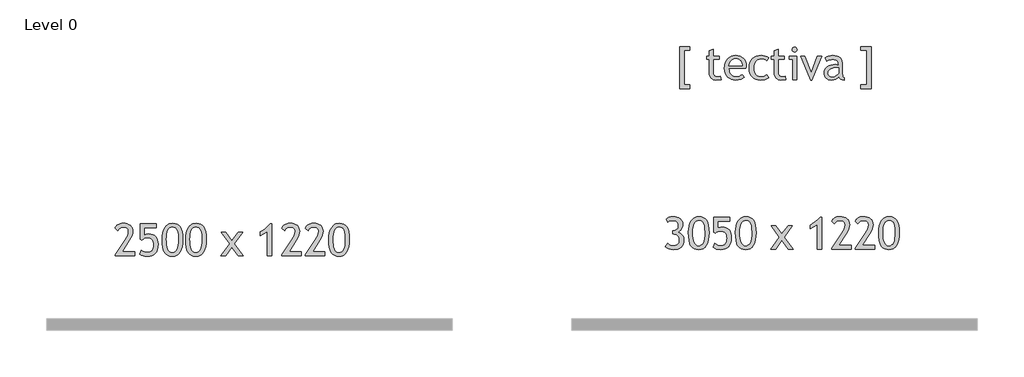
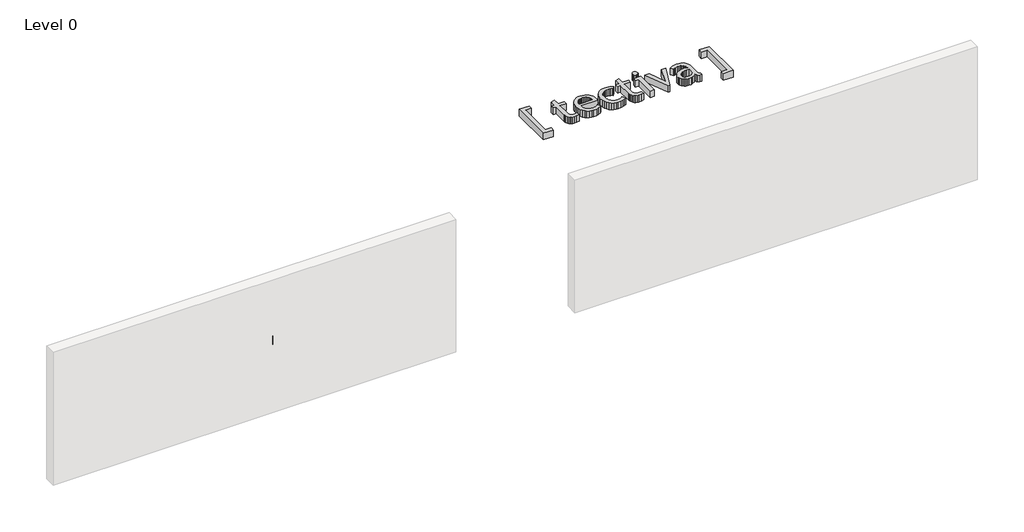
# One storey, part 5 of 5: 3 proxies.
"""IFC4 building model written with IfcOpenShell, lengths in millimetres."""

import ifcopenshell
import ifcopenshell.guid

model = None  # the IFC model being written
_history = None  # IfcOwnerHistory: only IFC2X3 demands one
_inside = {}  # id of a spatial element -> (the spatial element, [elements in it])
_under = {}  # id of a project, library or spatial element -> (it, [spatial elements below it])
_declared = {}  # id of a project -> (the project, [libraries it declares])
_typed = {}  # id of a type object -> (the type object, [elements of that type])
_made_of = {}  # id of a material, layer set ... -> (it, [elements and type objects made of it])


def new_model(schema):
    """Start an empty IFC model of exactly this schema.

    Asked for "IFC4X3", IfcOpenShell would pick the latest addendum, in which some entities
    have other attributes; the version numbers below select the first issue.
    IFC2X3 requires an IfcOwnerHistory on every rooted entity: one is made here for all.
    """
    global model, _history
    if schema == "IFC4X3":
        model = ifcopenshell.file(schema_version=(4, 3, 0, 0))
    else:
        model = ifcopenshell.file(schema=schema)
    _inside.clear()
    _under.clear()
    _declared.clear()
    _typed.clear()
    _made_of.clear()
    _history = None
    if model.schema == "IFC2X3":
        org = make("IfcOrganization", Name="unknown")
        user = make(
            "IfcPersonAndOrganization",
            ThePerson=make("IfcPerson", FamilyName="unknown"),
            TheOrganization=org,
        )
        app = make(
            "IfcApplication",
            ApplicationDeveloper=org,
            Version="unknown",
            ApplicationFullName="unknown",
            ApplicationIdentifier="unknown",
        )
        _history = make(
            "IfcOwnerHistory",
            OwningUser=user,
            OwningApplication=app,
            ChangeAction="ADDED",
            CreationDate=0,
        )
    return model


def make(cls, **values):
    """One entity of the class cls with the attributes given. An attribute that is None is left unset."""
    return model.create_entity(
        cls, **{name: value for name, value in values.items() if value is not None}
    )


def rooted(cls, **values):
    """An entity with a GlobalId (a new one), such as an element, a storey or a relation."""
    return make(cls, GlobalId=ifcopenshell.guid.new(), OwnerHistory=_history, **values)


def si_unit(unit_type, name, prefix=None):
    """IfcSIUnit, for example si_unit("LENGTHUNIT", "METRE", prefix="MILLI")."""
    return make("IfcSIUnit", UnitType=unit_type, Prefix=prefix, Name=name)


def assignment(units):
    """IfcUnitAssignment: the units of a project."""
    return None if units is None else make("IfcUnitAssignment", Units=units)


def point(xyz):
    """IfcCartesianPoint."""
    return None if xyz is None else make("IfcCartesianPoint", Coordinates=xyz)


def direction(xyz):
    """IfcDirection."""
    return None if xyz is None else make("IfcDirection", DirectionRatios=xyz)


def frame(location, z_axis=None, x_axis=None):
    """IfcAxis2Placement3D, a coordinate frame: its origin and axes. An axis left out is left unset."""
    return make(
        "IfcAxis2Placement3D",
        Location=point(location),
        Axis=direction(z_axis),
        RefDirection=direction(x_axis),
    )


def origin():
    """The frame at (0, 0, 0) with its axes left unset."""
    return frame((0.0, 0.0, 0.0))


def origin_with_axes():
    """The frame at (0, 0, 0) with the z axis (0, 0, 1) and the x axis (1, 0, 0) written out."""
    return frame((0.0, 0.0, 0.0), z_axis=(0.0, 0.0, 1.0), x_axis=(1.0, 0.0, 0.0))


def place(relative_to, where):
    """IfcLocalPlacement: puts the frame where relative to a parent placement (None: the world)."""
    return make(
        "IfcLocalPlacement", PlacementRelTo=relative_to, RelativePlacement=where
    )


def context(
    kind, dimensions, precision=None, world=None, true_north=None, identifier=None
):
    """IfcGeometricRepresentationContext, for example the 3D "Model" context."""
    return make(
        "IfcGeometricRepresentationContext",
        ContextIdentifier=identifier,
        ContextType=kind,
        CoordinateSpaceDimension=dimensions,
        Precision=precision,
        WorldCoordinateSystem=world,
        TrueNorth=true_north,
    )


def project(units=None, contexts=None):
    """IfcProject with its units and contexts."""
    return rooted(
        "IfcProject",
        Name="project",
        RepresentationContexts=contexts,
        UnitsInContext=assignment(units),
    )


def spatial(cls, under=None, at=None, **own):
    """A site, building, storey or space (cls), placed at a placement, below another one or the project."""
    s = rooted(cls, ObjectPlacement=at, **own)
    if under is not None:
        _under.setdefault(under.id(), (under, []))[1].append(s)
    return s


def polyline(points):
    """IfcPolyline through the points."""
    return make("IfcPolyline", Points=[point(p) for p in points])


def outline(outer, holes=None, kind="AREA"):
    """IfcArbitraryClosedProfileDef: a profile drawn as a closed curve; with holes, ...WithVoids."""
    if holes is None:
        return make("IfcArbitraryClosedProfileDef", ProfileType=kind, OuterCurve=outer)
    return make(
        "IfcArbitraryProfileDefWithVoids",
        ProfileType=kind,
        OuterCurve=outer,
        InnerCurves=holes,
    )


def extrude(swept, where, along, depth):
    """IfcExtrudedAreaSolid: the profile swept, set in the frame where, extruded along a direction by depth."""
    return make(
        "IfcExtrudedAreaSolid",
        SweptArea=swept,
        Position=where,
        ExtrudedDirection=direction(along),
        Depth=depth,
    )


def shape(context_of_items, identifier, shape_type, items):
    """IfcShapeRepresentation: the items that make up one representation, for example the "Body"."""
    return make(
        "IfcShapeRepresentation",
        ContextOfItems=context_of_items,
        RepresentationIdentifier=identifier,
        RepresentationType=shape_type,
        Items=items,
    )


def made_of(thing, what):
    """Note that an element or type object is made of a material, layer set ...; save() writes the relation."""
    if what is not None:
        _made_of.setdefault(what.id(), (what, []))[1].append(thing)
    return thing


def element(
    cls,
    number,
    at=None,
    inside=None,
    cuts=None,
    type_object=None,
    material=None,
    context=None,
    identifier="Body",
    shape_type=None,
    held_by="IfcProductDefinitionShape",
    body=None,
    shapes=None,
    **own,
):
    """One element of the class cls, such as IfcWall. Its Tag is "e" and its number.

    at: its placement. inside: the storey or other place that contains it. cuts: it is an
    opening in that element (IfcRelVoidsElement). A single representation is given by context,
    identifier, shape_type and body (its items); several are given by shapes. held_by: the class
    of the entity that holds the representations. save() writes the other relations.
    """
    e = rooted(cls, Tag="e%d" % number, ObjectPlacement=at, **own)
    if body is not None:
        shapes = [shape(context, identifier, shape_type, body)]
    if shapes is not None:
        e.Representation = make(held_by, Representations=shapes)
    if inside is not None:
        _inside.setdefault(inside.id(), (inside, []))[1].append(e)
    if cuts is not None:
        rooted(
            "IfcRelVoidsElement", RelatingBuildingElement=cuts, RelatedOpeningElement=e
        )
    if type_object is not None:
        _typed.setdefault(type_object.id(), (type_object, []))[1].append(e)
    return made_of(e, material)


def aggregate(whole, parts):
    """IfcRelAggregates: a whole, such as a stair, and the parts it consists of."""
    return rooted("IfcRelAggregates", RelatingObject=whole, RelatedObjects=parts)


def save(model, path):
    """Write the relations noted so far, then the file.

    IfcRelAggregates (storeys below a building ...), IfcRelContainedInSpatialStructure (elements
    in a storey), IfcRelDefinesByType, IfcRelAssociatesMaterial and IfcRelDeclares: one each for
    every whole, place, type object, material and project.
    """
    for whole, parts in _under.values():
        aggregate(whole, parts)
    for where, things in _inside.values():
        rooted(
            "IfcRelContainedInSpatialStructure",
            RelatedElements=things,
            RelatingStructure=where,
        )
    for kind, things in _typed.values():
        rooted("IfcRelDefinesByType", RelatedObjects=things, RelatingType=kind)
    for what, things in _made_of.values():
        rooted("IfcRelAssociatesMaterial", RelatedObjects=things, RelatingMaterial=what)
    for by, libraries in _declared.values():
        rooted("IfcRelDeclares", RelatingContext=by, RelatedDefinitions=libraries)
    model.write(path)


model = new_model("IFC4")

# Units and contexts
model_context = context("Model", 3, world=origin())
ifc_project = project(units=[si_unit("LENGTHUNIT", "METRE", prefix="MILLI")], contexts=[model_context])

# Site, building, storey
site = spatial("IfcSite", under=ifc_project)
building = spatial("IfcBuilding", under=site)
storey = spatial("IfcBuildingStorey", under=building, Name="Level 0", Elevation=0.0)

# Proxies
placement = place(None, origin())
element("IfcBuildingElementProxy", 1, Name="600mm Arial", ObjectType="600mm Arial", at=placement, inside=storey, context=model_context, shape_type="SweptSolid", body=[
    extrude(outline(polyline([(-7526.9321554, 7845.6289486), (-7526.9321554, 7863.9817028), (-7310.2213503, 8185.9891181), (-7280.4560564, 8234.6748967), (-7259.1951321, 8279.5140121), (-7246.4385775, 8320.5064645), (-7242.1863927, 8357.6522537), (-7243.8519283, 8379.4635288), (-7248.8485352, 8398.366634), (-7257.1762133, 8414.3615691), (-7268.8349626, 8427.4483342), (-7283.8247832, 8437.6269292), (-7302.145675, 8444.8973543), (-7323.7976381, 8449.2596093), (-7348.7806724, 8450.7136943), (-7385.4166628, 8445.6620524), (-7419.689041, 8430.5071265), (-7448.2145971, 8407.6588744), (-7467.6101215, 8379.5272537), (-7526.9321554, 8430.6925079), (-7517.1706684, 8453.0425476), (-7503.6436226, 8473.0058024), (-7486.351018, 8490.5822722), (-7465.2928546, 8505.771957), (-7441.1527261, 8518.0187129), (-7414.6142264, 8526.7663956), (-7385.6773554, 8532.0150052), (-7354.342113, 8533.7645418), (-7308.3327778, 8530.9548556), (-7267.6299838, 8522.5257971), (-7232.2337311, 8508.4773662), (-7202.1440198, 8488.809563), (-7178.1371342, 8463.9974271), (-7160.9893588, 8434.5159984), (-7150.7006935, 8400.3652767), (-7147.2711385, 8361.5452621), (-7151.8477407, 8321.0510222), (-7165.5775474, 8275.5746583), (-7188.4605585, 8225.1161705), (-7220.4967741, 8169.6755587), (-7372.6948673, 7928.679796), (-7111.6779181, 7928.679796), (-7111.6779181, 7845.6289486), (-7526.9321554, 7845.6289486)])), origin_with_axes(), (0.0, 0.0, 1.0), 150.0),
    extrude(outline(polyline([(-6960.035969, 8177.8323384), (-6993.0338503, 8199.1511943), (-6993.0338503, 8521.900135), (-6648.9660537, 8521.900135), (-6648.9660537, 8438.8492876), (-6909.9830029, 8438.8492876), (-6909.9830029, 8282.9435672), (-6890.6801692, 8294.0548622), (-6868.9210325, 8301.9915015), (-6844.7055929, 8306.7534851), (-6818.0338503, 8308.340813), (-6771.1960921, 8304.7953945), (-6730.2326056, 8294.1591392), (-6695.1433908, 8276.4320471), (-6665.9284478, 8251.6141181), (-6642.9353665, 8220.2499099), (-6626.511737, 8182.8839803), (-6616.6575593, 8139.5163294), (-6613.3728334, 8090.146957), (-6616.9877698, 8030.0573285), (-6627.8325791, 7977.9796504), (-6645.9072613, 7933.9139227), (-6671.2118164, 7897.8601456), (-6703.7462444, 7869.8183189), (-6743.5105452, 7849.7884427), (-6790.504719, 7837.770517), (-6844.7287656, 7833.7645418), (-6890.9582412, 7836.7306435), (-6933.0629817, 7845.6289486), (-6971.042987, 7860.459457), (-7004.8982571, 7881.2221689), (-6969.3050368, 7964.2730164), (-6936.9791628, 7943.5103045), (-6905.2557783, 7928.679796), (-6874.1348832, 7919.7814909), (-6843.6164774, 7916.8153892), (-6811.8988861, 7919.3093478), (-6784.4103069, 7926.7912235), (-6761.1507399, 7939.2610162), (-6742.1201851, 7956.7187261), (-6727.3186424, 7979.1643531), (-6716.746112, 8006.5978972), (-6710.4025937, 8039.0193584), (-6708.2880876, 8076.4287367), (-6710.393904, 8111.3180872), (-6716.711353, 8141.5555243), (-6727.2404347, 8167.141048), (-6741.9811491, 8188.0746583), (-6760.9334961, 8204.3563552), (-6784.0974759, 8215.9861387), (-6811.4730883, 8222.9640088), (-6843.0603334, 8225.2899655), (-6874.7721316, 8222.3238638), (-6904.8386702, 8213.4255587), (-6933.2599494, 8198.5950503), (-6960.035969, 8177.8323384)])), origin_with_axes(), (0.0, 0.0, 1.0), 150.0),
    extrude(outline(polyline([(-6530.3219859, 8203.0442028), (-6526.620152, 8272.7997311), (-6515.5146501, 8335.8004263), (-6497.0054804, 8392.0462883), (-6471.0926427, 8441.5373172), (-6438.4713172, 8481.886728), (-6419.9056641, 8497.7382822), (-6399.836684, 8510.7077356), (-6378.264377, 8520.7950883), (-6355.1887431, 8528.0003403), (-6304.5274944, 8533.7645418), (-6254.636737, 8528.9562129), (-6211.373363, 8514.5312261), (-6174.7373726, 8490.4895815), (-6144.7287656, 8456.8312791), (-6121.3707147, 8411.1927065), (-6104.6863927, 8351.2102515), (-6094.6757995, 8276.8839141), (-6091.3389351, 8188.2136943), (-6094.8380082, 8110.1102118), (-6105.3352274, 8040.789171), (-6122.8305929, 7980.250572), (-6147.3241046, 7928.4944147), (-6178.5492767, 7887.0500953), (-6196.5863033, 7870.7683984), (-6216.2396236, 7857.44701), (-6237.5092376, 7847.0859302), (-6260.3951453, 7839.6851588), (-6311.0158418, 7833.7645418), (-6361.7002632, 7838.5439049), (-6405.8615781, 7852.8819941), (-6443.4997865, 7876.7788095), (-6474.6148885, 7910.2343511), (-6487.6712394, 7931.5372758), (-6498.9867436, 7957.2111453), (-6516.3952116, 8021.6717187), (-6526.8402923, 8103.6160712), (-6530.3219859, 8203.0442028)]), holes=[polyline([(-6435.4067317, 8194.5166604), (-6433.5616079, 8129.430425), (-6428.0262364, 8073.0223543), (-6418.8006174, 8025.2924483), (-6405.8847507, 7986.240707), (-6389.2786365, 7955.8671305), (-6368.9822746, 7934.1717187), (-6344.9956651, 7921.1544716), (-6317.3188079, 7916.8153892), (-6285.8097706, 7920.6620524), (-6258.7614721, 7932.2020418), (-6236.1739126, 7951.4353575), (-6218.0470918, 7978.3619994), (-6204.137697, 8014.9168855), (-6194.2024149, 8063.0349337), (-6188.2412457, 8122.716144), (-6186.2541893, 8193.9605164), (-6189.3129817, 8286.0718776), (-6198.4893588, 8349.9589274), (-6214.4785007, 8393.662582), (-6225.2885511, 8410.9609798), (-6237.9755876, 8425.2237579), (-6252.5048514, 8436.3756051), (-6268.8415834, 8444.3412102), (-6286.9857836, 8449.1205733), (-6306.937452, 8450.7136943), (-6337.0474394, 8446.7106157), (-6363.1427619, 8434.7013797), (-6385.2234193, 8414.6859864), (-6403.2894118, 8386.6644359), (-6417.3407392, 8350.636728), (-6427.3774017, 8306.6028628), (-6433.3993992, 8254.5628403), (-6435.4067317, 8194.5166604)])]), origin_with_axes(), (0.0, 0.0, 1.0), 150.0),
    extrude(outline(polyline([(-6032.0169012, 8203.0442028), (-6028.3150672, 8272.7997311), (-6017.2095654, 8335.8004263), (-5998.7003956, 8392.0462883), (-5972.7875579, 8441.5373172), (-5940.1662325, 8481.886728), (-5921.6005793, 8497.7382822), (-5901.5315993, 8510.7077356), (-5879.9592923, 8520.7950883), (-5856.8836583, 8528.0003403), (-5806.2224096, 8533.7645418), (-5756.3316522, 8528.9562129), (-5713.0682783, 8514.5312261), (-5676.4322878, 8490.4895815), (-5646.4236808, 8456.8312791), (-5623.06563, 8411.1927065), (-5606.3813079, 8351.2102515), (-5596.3707147, 8276.8839141), (-5593.0338503, 8188.2136943), (-5596.5329234, 8110.1102118), (-5607.0301427, 8040.789171), (-5624.5255082, 7980.250572), (-5649.0190198, 7928.4944147), (-5680.244192, 7887.0500953), (-5698.2812186, 7870.7683984), (-5717.9345389, 7857.44701), (-5739.2041529, 7847.0859302), (-5762.0900606, 7839.6851588), (-5812.7107571, 7833.7645418), (-5863.3951784, 7838.5439049), (-5907.5564933, 7852.8819941), (-5945.1947018, 7876.7788095), (-5976.3098037, 7910.2343511), (-5989.3661547, 7931.5372758), (-6000.6816589, 7957.2111453), (-6018.0901268, 8021.6717187), (-6028.5352076, 8103.6160712), (-6032.0169012, 8203.0442028)]), holes=[polyline([(-5937.1016469, 8194.5166604), (-5935.2565231, 8129.430425), (-5929.7211517, 8073.0223543), (-5920.4955327, 8025.2924483), (-5907.579666, 7986.240707), (-5890.9735517, 7955.8671305), (-5870.6771898, 7934.1717187), (-5846.6905803, 7921.1544716), (-5819.0137232, 7916.8153892), (-5787.5046859, 7920.6620524), (-5760.4563874, 7932.2020418), (-5737.8688278, 7951.4353575), (-5719.7420071, 7978.3619994), (-5705.8326122, 8014.9168855), (-5695.8973302, 8063.0349337), (-5689.936161, 8122.716144), (-5687.9491046, 8193.9605164), (-5691.0078969, 8286.0718776), (-5700.1842741, 8349.9589274), (-5716.173416, 8393.662582), (-5726.9834663, 8410.9609798), (-5739.6705029, 8425.2237579), (-5754.1997666, 8436.3756051), (-5770.5364986, 8444.3412102), (-5788.6806988, 8449.1205733), (-5808.6323673, 8450.7136943), (-5838.7423547, 8446.7106157), (-5864.8376771, 8434.7013797), (-5886.9183346, 8414.6859864), (-5904.984327, 8386.6644359), (-5919.0356545, 8350.636728), (-5929.072317, 8306.6028628), (-5935.0943144, 8254.5628403), (-5937.1016469, 8194.5166604)])]), origin_with_axes(), (0.0, 0.0, 1.0), 150.0),
    extrude(outline(polyline([(-4916.7626639, 7845.6289486), (-5047.2711385, 8028.4149655), (-5177.779613, 7845.6289486), (-5284.5592741, 7845.6289486), (-5097.3241046, 8098.4891181), (-5272.6948673, 8343.9340333), (-5177.779613, 8343.9340333), (-5047.2711385, 8165.9679316), (-4916.7626639, 8343.9340333), (-4821.8474096, 8343.9340333), (-4997.2181724, 8098.4891181), (-4809.9830029, 7845.6289486), (-4916.7626639, 7845.6289486)])), origin_with_axes(), (0.0, 0.0, 1.0), 150.0),
    extrude(outline(polyline([(-4299.8135113, 7845.6289486), (-4299.8135113, 8359.5060672), (-4442.1863927, 8272.7475926), (-4442.1863927, 8355.7984401), (-4387.6611014, 8388.2170047), (-4329.7526003, 8430.9705799), (-4276.8493959, 8477.663509), (-4237.3399944, 8521.900135), (-4204.8982571, 8521.900135), (-4204.8982571, 7845.6289486), (-4299.8135113, 7845.6289486)])), origin_with_axes(), (0.0, 0.0, 1.0), 150.0),
    extrude(outline(polyline([(-3991.3389351, 7845.6289486), (-3991.3389351, 7863.9817028), (-3774.62813, 8185.9891181), (-3744.862836, 8234.6748967), (-3723.6019118, 8279.5140121), (-3710.8453572, 8320.5064645), (-3706.5931724, 8357.6522537), (-3708.258708, 8379.4635288), (-3713.2553148, 8398.366634), (-3721.5829929, 8414.3615691), (-3733.2417423, 8427.4483342), (-3748.2315628, 8437.6269292), (-3766.5524547, 8444.8973543), (-3788.2044177, 8449.2596093), (-3813.187452, 8450.7136943), (-3849.8234425, 8445.6620524), (-3884.0958207, 8430.5071265), (-3912.6213768, 8407.6588744), (-3932.0169012, 8379.5272537), (-3991.3389351, 8430.6925079), (-3981.577448, 8453.0425476), (-3968.0504022, 8473.0058024), (-3950.7577976, 8490.5822722), (-3929.6996342, 8505.771957), (-3905.5595058, 8518.0187129), (-3879.021006, 8526.7663956), (-3850.084135, 8532.0150052), (-3818.7488927, 8533.7645418), (-3772.7395574, 8530.9548556), (-3732.0367635, 8522.5257971), (-3696.6405108, 8508.4773662), (-3666.5507995, 8488.809563), (-3642.5439139, 8463.9974271), (-3625.3961385, 8434.5159984), (-3615.1074732, 8400.3652767), (-3611.6779181, 8361.5452621), (-3616.2545203, 8321.0510222), (-3629.984327, 8275.5746583), (-3652.8673381, 8225.1161705), (-3684.9035537, 8169.6755587), (-3837.1016469, 7928.679796), (-3576.0846978, 7928.679796), (-3576.0846978, 7845.6289486), (-3991.3389351, 7845.6289486)])), origin_with_axes(), (0.0, 0.0, 1.0), 150.0),
    extrude(outline(polyline([(-3493.0338503, 7845.6289486), (-3493.0338503, 7863.9817028), (-3276.3230452, 8185.9891181), (-3246.5577513, 8234.6748967), (-3225.296827, 8279.5140121), (-3212.5402725, 8320.5064645), (-3208.2880876, 8357.6522537), (-3209.9536232, 8379.4635288), (-3214.9502301, 8398.366634), (-3223.2779082, 8414.3615691), (-3234.9366575, 8427.4483342), (-3249.9264781, 8437.6269292), (-3268.2473699, 8444.8973543), (-3289.899333, 8449.2596093), (-3314.8823673, 8450.7136943), (-3351.5183577, 8445.6620524), (-3385.7907359, 8430.5071265), (-3414.3162921, 8407.6588744), (-3433.7118164, 8379.5272537), (-3493.0338503, 8430.6925079), (-3483.2723633, 8453.0425476), (-3469.7453175, 8473.0058024), (-3452.4527129, 8490.5822722), (-3431.3945495, 8505.771957), (-3407.254421, 8518.0187129), (-3380.7159213, 8526.7663956), (-3351.7790503, 8532.0150052), (-3320.4438079, 8533.7645418), (-3274.4344727, 8530.9548556), (-3233.7316787, 8522.5257971), (-3198.3354261, 8508.4773662), (-3168.2457147, 8488.809563), (-3144.2388291, 8463.9974271), (-3127.0910537, 8434.5159984), (-3116.8023885, 8400.3652767), (-3113.3728334, 8361.5452621), (-3117.9494356, 8321.0510222), (-3131.6792423, 8275.5746583), (-3154.5622534, 8225.1161705), (-3186.598469, 8169.6755587), (-3338.7965622, 7928.679796), (-3077.779613, 7928.679796), (-3077.779613, 7845.6289486), (-3493.0338503, 7845.6289486)])), origin_with_axes(), (0.0, 0.0, 1.0), 150.0),
    extrude(outline(polyline([(-2994.7287656, 8203.0442028), (-2991.0269316, 8272.7997311), (-2979.9214298, 8335.8004263), (-2961.41226, 8392.0462883), (-2935.4994224, 8441.5373172), (-2902.8780969, 8481.886728), (-2884.3124437, 8497.7382822), (-2864.2434637, 8510.7077356), (-2842.6711567, 8520.7950883), (-2819.5955227, 8528.0003403), (-2768.9342741, 8533.7645418), (-2719.0435166, 8528.9562129), (-2675.7801427, 8514.5312261), (-2639.1441522, 8490.4895815), (-2609.1355452, 8456.8312791), (-2585.7774944, 8411.1927065), (-2569.0931724, 8351.2102515), (-2559.0825791, 8276.8839141), (-2555.7457147, 8188.2136943), (-2559.2447878, 8110.1102118), (-2569.7420071, 8040.789171), (-2587.2373726, 7980.250572), (-2611.7308842, 7928.4944147), (-2642.9560564, 7887.0500953), (-2660.993083, 7870.7683984), (-2680.6464033, 7857.44701), (-2701.9160173, 7847.0859302), (-2724.801925, 7839.6851588), (-2775.4226215, 7833.7645418), (-2826.1070429, 7838.5439049), (-2870.2683577, 7852.8819941), (-2907.9065662, 7876.7788095), (-2939.0216681, 7910.2343511), (-2952.0780191, 7931.5372758), (-2963.3935233, 7957.2111453), (-2980.8019912, 8021.6717187), (-2991.247072, 8103.6160712), (-2994.7287656, 8203.0442028)]), holes=[polyline([(-2899.8135113, 8194.5166604), (-2897.9683875, 8129.430425), (-2892.4330161, 8073.0223543), (-2883.2073971, 8025.2924483), (-2870.2915304, 7986.240707), (-2853.6854161, 7955.8671305), (-2833.3890542, 7934.1717187), (-2809.4024447, 7921.1544716), (-2781.7255876, 7916.8153892), (-2750.2165503, 7920.6620524), (-2723.1682518, 7932.2020418), (-2700.5806922, 7951.4353575), (-2682.4538715, 7978.3619994), (-2668.5444766, 8014.9168855), (-2658.6091946, 8063.0349337), (-2652.6480254, 8122.716144), (-2650.660969, 8193.9605164), (-2653.7197613, 8286.0718776), (-2662.8961385, 8349.9589274), (-2678.8852804, 8393.662582), (-2689.6953307, 8410.9609798), (-2702.3823673, 8425.2237579), (-2716.911631, 8436.3756051), (-2733.248363, 8444.3412102), (-2751.3925632, 8449.1205733), (-2771.3442317, 8450.7136943), (-2801.4542191, 8446.7106157), (-2827.5495415, 8434.7013797), (-2849.630199, 8414.6859864), (-2867.6961914, 8386.6644359), (-2881.7475189, 8350.636728), (-2891.7841814, 8306.6028628), (-2897.8061788, 8254.5628403), (-2899.8135113, 8194.5166604)])]), origin_with_axes(), (0.0, 0.0, 1.0), 150.0),
])
element("IfcBuildingElementProxy", 2, Name="600mm Arial", ObjectType="600mm Arial", at=placement, inside=storey, context=model_context, shape_type="SweptSolid", body=[
    extrude(outline(polyline([(4146.4241223, 8035.0912284), (4193.8817494, 8106.2776691), (4218.6069878, 8085.5149572), (4246.4373638, 8070.6844488), (4277.3728776, 8061.7861437), (4311.4135291, 8058.820042), (4342.2621453, 8060.740477), (4368.9976128, 8066.5017819), (4391.6199313, 8076.1039568), (4410.1291011, 8089.5470017), (4424.525122, 8106.8309166), (4434.8079941, 8127.9557014), (4440.9777174, 8152.9213562), (4443.0342918, 8181.727881), (4440.722818, 8208.4923142), (4433.7883967, 8232.6150632), (4422.2310277, 8254.0961278), (4406.0507113, 8272.9355081), (4386.0469043, 8288.2642289), (4363.019064, 8299.2133153), (4336.9671904, 8305.7827671), (4307.8912833, 8307.9725844), (4300.6614104, 8307.9725844), (4300.6614104, 8379.159025), (4304.7398003, 8379.159025), (4331.591131, 8380.7898016), (4354.8622844, 8385.6821315), (4374.5532603, 8393.8360146), (4390.6640587, 8405.2514509), (4403.1946798, 8419.9284404), (4412.1451234, 8437.8669832), (4417.5153895, 8459.0670792), (4419.3054782, 8483.5287284), (4417.4169057, 8509.1200453), (4411.751188, 8531.2991866), (4402.3083252, 8550.0661523), (4389.0883172, 8565.4209424), (4372.0911641, 8577.3635569), (4351.3168659, 8585.8939959), (4326.7654226, 8591.0122593), (4298.4368342, 8592.7183471), (4267.2927664, 8590.4937708), (4239.485563, 8583.820042), (4215.015224, 8572.6971606), (4193.8817494, 8557.1251267), (4158.2885291, 8616.4471606), (4184.2650916, 8642.4005505), (4217.7032536, 8660.938686), (4258.6030153, 8672.0615674), (4306.9643765, 8675.7691945), (4350.6448585, 8672.8146792), (4390.1079147, 8663.9511331), (4425.353545, 8649.1785563), (4456.3817494, 8628.4969488), (4481.6863045, 8603.1923937), (4499.7609867, 8574.5509742), (4510.605796, 8542.5726903), (4514.2207325, 8507.257542), (4512.2278829, 8479.9717237), (4506.2493342, 8454.2848195), (4496.2850863, 8430.1968296), (4482.3351392, 8407.7077538), (4465.6971625, 8387.8024308), (4447.6688257, 8371.4656988), (4428.2501286, 8358.6975579), (4407.4410714, 8349.4980081), (4435.8449711, 8338.282436), (4461.178492, 8323.7299996), (4483.4416342, 8305.8406988), (4502.6343977, 8284.6145335), (4518.0847751, 8260.5149572), (4529.1207589, 8234.0054233), (4535.7423493, 8205.0859318), (4537.949546, 8173.7564827), (4534.1550214, 8129.085369), (4522.7714475, 8089.8019011), (4503.7988244, 8055.9060788), (4477.237152, 8027.3979021), (4443.8279557, 8004.8103426), (4404.3127611, 7988.6763714), (4358.691568, 7978.9959887), (4306.9643765, 7975.7691945), (4261.291045, 7980.1256564), (4216.5909655, 7993.195042), (4176.942528, 8012.3820123), (4146.4241223, 8035.0912284)])), origin_with_axes(), (0.0, 0.0, 1.0), 150.0),
    extrude(outline(polyline([(4632.8648003, 8345.0488555), (4636.5666342, 8414.8043839), (4647.6721361, 8477.8050791), (4666.1813058, 8534.0509411), (4692.0941435, 8583.5419699), (4724.715469, 8623.8913807), (4743.2811221, 8639.7429349), (4763.3501022, 8652.7123884), (4784.9224092, 8662.7997411), (4807.9980431, 8670.004993), (4858.6592918, 8675.7691945), (4908.5500492, 8670.9608656), (4951.8134231, 8656.5358788), (4988.4494136, 8632.4942342), (5018.4580206, 8598.8359318), (5041.8160714, 8553.1973592), (5058.5003935, 8493.2149043), (5068.5109867, 8418.8885669), (5071.8478511, 8330.2183471), (5068.348778, 8252.1148645), (5057.8515587, 8182.7938238), (5040.3561933, 8122.2552247), (5015.8626816, 8070.4990674), (4984.6375095, 8029.054748), (4966.6004829, 8012.7730511), (4946.9471625, 7999.4516627), (4925.6775485, 7989.0905829), (4902.7916408, 7981.6898116), (4852.1709443, 7975.7691945), (4801.486523, 7980.5485576), (4757.3252081, 7994.8866469), (4719.6869997, 8018.7834623), (4688.5718977, 8052.2390038), (4675.5155467, 8073.5419286), (4664.2000426, 8099.2157981), (4646.7915746, 8163.6763714), (4636.3464938, 8245.6207239), (4632.8648003, 8345.0488555)]), holes=[polyline([(4727.7800545, 8336.5213132), (4729.6251783, 8271.4350777), (4735.1605497, 8215.027007), (4744.3861688, 8167.297101), (4757.3020354, 8128.2453598), (4773.9081497, 8097.8717832), (4794.2045116, 8076.1763714), (4818.1911211, 8063.1591243), (4845.8679782, 8058.820042), (4877.3770156, 8062.6667051), (4904.425314, 8074.2066945), (4927.0128736, 8093.4400102), (4945.1396943, 8120.3666521), (4959.0490892, 8156.9215383), (4968.9843712, 8205.0395865), (4974.9455405, 8264.7207967), (4976.9325969, 8335.9651691), (4973.8738045, 8428.0765303), (4964.6974274, 8491.9635801), (4948.7082854, 8535.6672348), (4937.8982351, 8552.9656326), (4925.2111986, 8567.2284106), (4910.6819348, 8578.3802578), (4894.3452028, 8586.345863), (4876.2010026, 8591.125226), (4856.2493342, 8592.7183471), (4826.1393467, 8588.7152684), (4800.0440243, 8576.7060324), (4777.9633669, 8556.6906392), (4759.8973744, 8528.6690886), (4745.8460469, 8492.6413807), (4735.8093845, 8448.6075155), (4729.787387, 8396.567493), (4727.7800545, 8336.5213132)])]), origin_with_axes(), (0.0, 0.0, 1.0), 150.0),
    extrude(outline(polyline([(5199.7609867, 8319.8369911), (5166.7631053, 8341.1558471), (5166.7631053, 8663.9047877), (5510.830902, 8663.9047877), (5510.830902, 8580.8539403), (5249.8139528, 8580.8539403), (5249.8139528, 8424.9482199), (5269.1167865, 8436.059515), (5290.8759231, 8443.9961543), (5315.0913628, 8448.7581378), (5341.7631053, 8450.3454657), (5388.6008636, 8446.8000473), (5429.56435, 8436.163792), (5464.6535648, 8418.4366998), (5493.8685079, 8393.6187708), (5516.8615892, 8362.2545626), (5533.2852187, 8324.8886331), (5543.1393964, 8281.5209821), (5546.4241223, 8232.1516098), (5542.8091859, 8172.0619812), (5531.9643765, 8119.9843031), (5513.8896943, 8075.9185755), (5488.5851392, 8039.8647983), (5456.0507113, 8011.8229717), (5416.2864104, 7991.7930955), (5369.2922367, 7979.7751698), (5315.0681901, 7975.7691945), (5268.8387145, 7978.7352962), (5226.733974, 7987.6336013), (5188.7539687, 8002.4641098), (5154.8986986, 8023.2268216), (5190.4919189, 8106.2776691), (5222.8177928, 8085.5149572), (5254.5411774, 8070.6844488), (5285.6620725, 8061.7861437), (5316.1804782, 8058.820042), (5347.8980696, 8061.3140005), (5375.3866488, 8068.7958762), (5398.6462158, 8081.265669), (5417.6767706, 8098.7233788), (5432.4783132, 8121.1690058), (5443.0508437, 8148.6025499), (5449.394362, 8181.0240111), (5451.5088681, 8218.4333894), (5449.4030517, 8253.3227399), (5443.0856027, 8283.560177), (5432.556521, 8309.1457007), (5417.8158066, 8330.079311), (5398.8634596, 8346.3610079), (5375.6994798, 8357.9907914), (5348.3238674, 8364.9686616), (5316.7366223, 8367.2946183), (5285.0248241, 8364.3285166), (5254.9582854, 8355.4302115), (5226.5370063, 8340.599703), (5199.7609867, 8319.8369911)])), origin_with_axes(), (0.0, 0.0, 1.0), 150.0),
    extrude(outline(polyline([(5629.4749698, 8345.0488555), (5633.1768037, 8414.8043839), (5644.2823056, 8477.8050791), (5662.7914753, 8534.0509411), (5688.704313, 8583.5419699), (5721.3256384, 8623.8913807), (5739.8912916, 8639.7429349), (5759.9602717, 8652.7123884), (5781.5325787, 8662.7997411), (5804.6082126, 8670.004993), (5855.2694613, 8675.7691945), (5905.1602187, 8670.9608656), (5948.4235926, 8656.5358788), (5985.0595831, 8632.4942342), (6015.0681901, 8598.8359318), (6038.4262409, 8553.1973592), (6055.110563, 8493.2149043), (6065.1211562, 8418.8885669), (6068.4580206, 8330.2183471), (6064.9589475, 8252.1148645), (6054.4617282, 8182.7938238), (6036.9663628, 8122.2552247), (6012.4728511, 8070.4990674), (5981.247679, 8029.054748), (5963.2106524, 8012.7730511), (5943.557332, 7999.4516627), (5922.287718, 7989.0905829), (5899.4018103, 7981.6898116), (5848.7811138, 7975.7691945), (5798.0966925, 7980.5485576), (5753.9353776, 7994.8866469), (5716.2971692, 8018.7834623), (5685.1820672, 8052.2390038), (5672.1257162, 8073.5419286), (5660.8102121, 8099.2157981), (5643.4017441, 8163.6763714), (5632.9566633, 8245.6207239), (5629.4749698, 8345.0488555)]), holes=[polyline([(5724.390224, 8336.5213132), (5726.2353478, 8271.4350777), (5731.7707192, 8215.027007), (5740.9963383, 8167.297101), (5753.9122049, 8128.2453598), (5770.5183192, 8097.8717832), (5790.8146811, 8076.1763714), (5814.8012906, 8063.1591243), (5842.4781477, 8058.820042), (5873.9871851, 8062.6667051), (5901.0354835, 8074.2066945), (5923.6230431, 8093.4400102), (5941.7498638, 8120.3666521), (5955.6592587, 8156.9215383), (5965.5945407, 8205.0395865), (5971.55571, 8264.7207967), (5973.5427664, 8335.9651691), (5970.483974, 8428.0765303), (5961.3075969, 8491.9635801), (5945.3184549, 8535.6672348), (5934.5084046, 8552.9656326), (5921.8213681, 8567.2284106), (5907.2921043, 8578.3802578), (5890.9553723, 8586.345863), (5872.8111721, 8591.125226), (5852.8595036, 8592.7183471), (5822.7495162, 8588.7152684), (5796.6541938, 8576.7060324), (5774.5735364, 8556.6906392), (5756.5075439, 8528.6690886), (5742.4562164, 8492.6413807), (5732.419554, 8448.6075155), (5726.3975565, 8396.567493), (5724.390224, 8336.5213132)])]), origin_with_axes(), (0.0, 0.0, 1.0), 150.0),
    extrude(outline(polyline([(6744.729207, 7987.6336013), (6614.2207325, 8170.4196183), (6483.7122579, 7987.6336013), (6376.9325969, 7987.6336013), (6564.1677664, 8240.4937708), (6388.7970036, 8485.938686), (6483.7122579, 8485.938686), (6614.2207325, 8307.9725844), (6744.729207, 8485.938686), (6839.6444613, 8485.938686), (6664.2736986, 8240.4937708), (6851.5088681, 7987.6336013), (6744.729207, 7987.6336013)])), origin_with_axes(), (0.0, 0.0, 1.0), 150.0),
    extrude(outline(polyline([(7361.6783596, 7987.6336013), (7361.6783596, 8501.5107199), (7219.3054782, 8414.7522454), (7219.3054782, 8497.8030928), (7273.8307695, 8530.2216574), (7331.7392706, 8572.9752327), (7384.642475, 8619.6681617), (7424.1518765, 8663.9047877), (7456.5936138, 8663.9047877), (7456.5936138, 7987.6336013), (7361.6783596, 7987.6336013)])), origin_with_axes(), (0.0, 0.0, 1.0), 150.0),
    extrude(outline(polyline([(7670.1529359, 7987.6336013), (7670.1529359, 8005.9863555), (7886.8637409, 8327.9937708), (7916.6290349, 8376.6795494), (7937.8899592, 8421.5186649), (7950.6465137, 8462.5111172), (7954.8986986, 8499.6569064), (7953.2331629, 8521.4681815), (7948.2365561, 8540.3712867), (7939.908878, 8556.3662218), (7928.2501286, 8569.4529869), (7913.2603081, 8579.631582), (7894.9394163, 8586.902007), (7873.2874532, 8591.2642621), (7848.3044189, 8592.7183471), (7811.6684284, 8587.6667051), (7777.3960503, 8572.5117793), (7748.8704941, 8549.6635271), (7729.4749698, 8521.5319064), (7670.1529359, 8572.6971606), (7679.9144229, 8595.0472003), (7693.4414687, 8615.0104551), (7710.7340733, 8632.5869249), (7731.7922367, 8647.7766098), (7755.9323651, 8660.0233656), (7782.4708649, 8668.7710483), (7811.4077359, 8674.019658), (7842.7429782, 8675.7691945), (7888.7523135, 8672.9595083), (7929.4551075, 8664.5304498), (7964.8513601, 8650.4820189), (7994.9410714, 8630.8142157), (8018.947957, 8606.0020799), (8036.0957325, 8576.5206511), (8046.3843977, 8542.3699294), (8049.8139528, 8503.5499149), (8045.2373506, 8463.0556749), (8031.5075439, 8417.579311), (8008.6245328, 8367.1208232), (7976.5883172, 8311.6802115), (7824.390224, 8070.6844488), (8085.4071731, 8070.6844488), (8085.4071731, 7987.6336013), (7670.1529359, 7987.6336013)])), origin_with_axes(), (0.0, 0.0, 1.0), 150.0),
    extrude(outline(polyline([(8168.4580206, 7987.6336013), (8168.4580206, 8005.9863555), (8385.1688257, 8327.9937708), (8414.9341196, 8376.6795494), (8436.1950439, 8421.5186649), (8448.9515985, 8462.5111172), (8453.2037833, 8499.6569064), (8451.5382477, 8521.4681815), (8446.5416408, 8540.3712867), (8438.2139627, 8556.3662218), (8426.5552134, 8569.4529869), (8411.5653928, 8579.631582), (8393.244501, 8586.902007), (8371.5925379, 8591.2642621), (8346.6095036, 8592.7183471), (8309.9735132, 8587.6667051), (8275.701135, 8572.5117793), (8247.1755789, 8549.6635271), (8227.7800545, 8521.5319064), (8168.4580206, 8572.6971606), (8178.2195076, 8595.0472003), (8191.7465534, 8615.0104551), (8209.039158, 8632.5869249), (8230.0973214, 8647.7766098), (8254.2374499, 8660.0233656), (8280.7759496, 8668.7710483), (8309.7128207, 8674.019658), (8341.048063, 8675.7691945), (8387.0573982, 8672.9595083), (8427.7601922, 8664.5304498), (8463.1564449, 8650.4820189), (8493.2461562, 8630.8142157), (8517.2530418, 8606.0020799), (8534.4008172, 8576.5206511), (8544.6894825, 8542.3699294), (8548.1190375, 8503.5499149), (8543.5424353, 8463.0556749), (8529.8126286, 8417.579311), (8506.9296175, 8367.1208232), (8474.893402, 8311.6802115), (8322.6953087, 8070.6844488), (8583.7122579, 8070.6844488), (8583.7122579, 7987.6336013), (8168.4580206, 7987.6336013)])), origin_with_axes(), (0.0, 0.0, 1.0), 150.0),
    extrude(outline(polyline([(8666.7631053, 8345.0488555), (8670.4649393, 8414.8043839), (8681.5704411, 8477.8050791), (8700.0796109, 8534.0509411), (8725.9924486, 8583.5419699), (8758.613774, 8623.8913807), (8777.1794272, 8639.7429349), (8797.2484073, 8652.7123884), (8818.8207143, 8662.7997411), (8841.8963482, 8670.004993), (8892.5575969, 8675.7691945), (8942.4483543, 8670.9608656), (8985.7117282, 8656.5358788), (9022.3477187, 8632.4942342), (9052.3563257, 8598.8359318), (9075.7143765, 8553.1973592), (9092.3986986, 8493.2149043), (9102.4092918, 8418.8885669), (9105.7461562, 8330.2183471), (9102.2470831, 8252.1148645), (9091.7498638, 8182.7938238), (9074.2544984, 8122.2552247), (9049.7609867, 8070.4990674), (9018.5358146, 8029.054748), (9000.4987879, 8012.7730511), (8980.8454676, 7999.4516627), (8959.5758536, 7989.0905829), (8936.6899459, 7981.6898116), (8886.0692494, 7975.7691945), (8835.3848281, 7980.5485576), (8791.2235132, 7994.8866469), (8753.5853048, 8018.7834623), (8722.4702028, 8052.2390038), (8709.4138518, 8073.5419286), (8698.0983477, 8099.2157981), (8680.6898797, 8163.6763714), (8670.2447989, 8245.6207239), (8666.7631053, 8345.0488555)]), holes=[polyline([(8761.6783596, 8336.5213132), (8763.5234834, 8271.4350777), (8769.0588548, 8215.027007), (8778.2844739, 8167.297101), (8791.2003405, 8128.2453598), (8807.8064548, 8097.8717832), (8828.1028167, 8076.1763714), (8852.0894262, 8063.1591243), (8879.7662833, 8058.820042), (8911.2753207, 8062.6667051), (8938.3236191, 8074.2066945), (8960.9111787, 8093.4400102), (8979.0379994, 8120.3666521), (8992.9473943, 8156.9215383), (9002.8826763, 8205.0395865), (9008.8438455, 8264.7207967), (9010.830902, 8335.9651691), (9007.7721096, 8428.0765303), (8998.5957325, 8491.9635801), (8982.6065905, 8535.6672348), (8971.7965402, 8552.9656326), (8959.1095036, 8567.2284106), (8944.5802399, 8578.3802578), (8928.2435079, 8586.345863), (8910.0993077, 8591.125226), (8890.1476392, 8592.7183471), (8860.0376518, 8588.7152684), (8833.9423294, 8576.7060324), (8811.8616719, 8556.6906392), (8793.7956795, 8528.6690886), (8779.744352, 8492.6413807), (8769.7076896, 8448.6075155), (8763.6856921, 8396.567493), (8761.6783596, 8336.5213132)])]), origin_with_axes(), (0.0, 0.0, 1.0), 150.0),
])
element("IfcBuildingElementProxy", 3, Name="600mm Arial", ObjectType="600mm Arial", at=placement, inside=storey, context=model_context, shape_type="SweptSolid", body=[
    extrude(outline(polyline([(4447.3615694, 11392.4076101), (4447.3615694, 12282.2381186), (4660.9208914, 12282.2381186), (4660.9208914, 12199.1872711), (4542.2768236, 12199.1872711), (4542.2768236, 11475.4584576), (4660.9208914, 11475.4584576), (4660.9208914, 11392.4076101), (4447.3615694, 11392.4076101)])), origin_with_axes(), (0.0, 0.0, 1.0), 150.0),
    extrude(outline(polyline([(5076.1751287, 12009.3567627), (5016.8530948, 12009.3567627), (5016.8530948, 12080.5432033), (5076.1751287, 12080.5432033), (5076.1751287, 12187.8790084), (5159.2259761, 12222.9160847), (5159.2259761, 12080.5432033), (5289.7344507, 12080.5432033), (5289.7344507, 12009.3567627), (5159.2259761, 12009.3567627), (5159.2259761, 11758.9065508), (5164.3239634, 11704.4971228), (5170.6964475, 11684.1746917), (5179.6179253, 11668.4404491), (5191.3664687, 11656.6803193), (5206.2201499, 11648.2802266), (5224.1789687, 11643.240171), (5245.2429253, 11641.5601525), (5278.426188, 11644.5262542), (5312.7217389, 11653.4245593), (5325.3276711, 11582.979644), (5270.362099, 11573.5251949), (5210.3912304, 11570.3737118), (5183.2270686, 11573.1312595), (5158.2758967, 11581.4039025), (5135.5377148, 11595.1916408), (5115.0125228, 11614.4944745), (5098.0211629, 11637.9915614), (5085.8844772, 11664.3620593), (5078.6024658, 11693.6059682), (5076.1751287, 11725.7232881), (5076.1751287, 12009.3567627)])), origin_with_axes(), (0.0, 0.0, 1.0), 150.0),
    extrude(outline(polyline([(5852.1814846, 11819.5262542), (5491.429366, 11819.5262542), (5494.4186403, 11777.6995858), (5503.3864634, 11741.0172499), (5518.3328353, 11709.4792468), (5539.2577558, 11683.0855762), (5561.9785582, 11664.9182033), (5587.688635, 11651.9415084), (5616.3879862, 11644.1554915), (5648.0766117, 11641.5601525), (5684.4113575, 11644.5262542), (5717.5946202, 11653.4245593), (5747.6263999, 11668.2550677), (5774.5066965, 11689.0177796), (5811.768349, 11629.6957457), (5785.7222685, 11609.1184152), (5748.738688, 11591.5071864), (5692.4754465, 11575.6570805), (5630.0946202, 11570.3737118), (5584.6993607, 11574.39417), (5542.8726922, 11586.4555444), (5504.6146149, 11606.5578352), (5469.9251287, 11634.7010423), (5437.8078088, 11673.248778), (5414.866866, 11717.8909258), (5401.1023003, 11768.6274856), (5396.5141117, 11825.4584576), (5401.22975, 11884.6646281), (5415.3766647, 11937.7068686), (5438.9548559, 11984.585179), (5471.9643236, 12025.2995593), (5507.2562992, 12054.6593315), (5545.6534126, 12075.6305974), (5587.1556636, 12088.2133569), (5631.7630524, 12092.4076101), (5682.6038893, 12088.5725333), (5727.6052134, 12077.0673029), (5766.7670249, 12057.8919189), (5800.0893236, 12031.0463813), (5825.9616091, 11999.1607881), (5844.441813, 11962.4552796), (5855.5299354, 11920.9298559), (5859.2259761, 11874.5845169), (5857.4648533, 11845.8967521), (5852.1814846, 11819.5262542)]), holes=[polyline([(5638.4367812, 12021.2211694), (5609.1696997, 12018.5794851), (5582.3589211, 12010.6544322), (5558.0044454, 11997.4460105), (5536.1062728, 11978.9542203), (5518.5066303, 11957.6121917), (5505.1939317, 11933.8138601), (5496.1681769, 11907.5592256), (5491.429366, 11878.8482881), (5776.1751287, 11878.8482881), (5774.0200704, 11907.2811536), (5767.5548956, 11933.2577161), (5756.7796043, 11956.7779756), (5741.6941965, 11977.8419322), (5720.9894163, 11996.8203485), (5696.8782537, 12010.3763601), (5669.3607087, 12018.5099671), (5638.4367812, 12021.2211694)])]), origin_with_axes(), (0.0, 0.0, 1.0), 150.0),
    extrude(outline(polyline([(6333.8022473, 12044.949983), (6289.3107219, 11985.6279491), (6270.4713416, 11998.0716726), (6241.0188787, 12009.8202161), (6206.5611192, 12018.3709311), (6172.705849, 12021.2211694), (6137.9816038, 12017.9654094), (6107.0345037, 12008.1981292), (6079.8645487, 11991.9193289), (6056.4717389, 11969.1290084), (6037.6555312, 11940.6729703), (6024.2153829, 11907.3970169), (6016.1512939, 11869.3011483), (6013.4632643, 11826.3853644), (6016.1860529, 11783.9330338), (6024.3544189, 11746.8567627), (6037.9683623, 11715.1565508), (6057.0278829, 11688.8323983), (6080.9189052, 11668.1507907), (6109.0273533, 11653.3782139), (6141.3532272, 11644.5146679), (6177.896527, 11641.5601525), (6207.905134, 11644.5262542), (6238.052777, 11653.4245593), (6268.339456, 11668.2550677), (6298.7651711, 11689.0177796), (6333.8022473, 11617.8313389), (6295.7063787, 11597.0686271), (6253.3467389, 11582.2381186), (6206.7233278, 11573.3398135), (6155.8361456, 11570.3737118), (6106.6231888, 11574.6896215), (6061.8709709, 11587.6373506), (6021.5794918, 11609.216899), (5985.7487516, 11639.4282669), (5956.3484272, 11677.0085436), (5935.3481954, 11720.6948188), (5922.7480564, 11770.4870924), (5918.54801, 11826.3853644), (5922.9392309, 11883.5755127), (5936.1128935, 11934.8334576), (5958.0689979, 11980.1591991), (5988.8075439, 12019.5527372), (6027.1698983, 12051.4267441), (6071.9974274, 12074.1938919), (6123.2901313, 12087.8541806), (6181.04801, 12092.4076101), (6221.994117, 12088.5377743), (6266.2307431, 12076.9282669), (6306.064562, 12061.1940243), (6333.8022473, 12044.949983)])), origin_with_axes(), (0.0, 0.0, 1.0), 150.0),
    extrude(outline(polyline([(6452.4463151, 12009.3567627), (6393.1242812, 12009.3567627), (6393.1242812, 12080.5432033), (6452.4463151, 12080.5432033), (6452.4463151, 12187.8790084), (6535.4971626, 12222.9160847), (6535.4971626, 12080.5432033), (6666.0056372, 12080.5432033), (6666.0056372, 12009.3567627), (6535.4971626, 12009.3567627), (6535.4971626, 11758.9065508), (6540.5951499, 11704.4971228), (6546.967634, 11684.1746917), (6555.8891117, 11668.4404491), (6567.6376552, 11656.6803193), (6582.4913363, 11648.2802266), (6600.4501552, 11643.240171), (6621.5141117, 11641.5601525), (6654.6973745, 11644.5262542), (6688.9929253, 11653.4245593), (6701.5988575, 11582.979644), (6646.6332855, 11573.5251949), (6586.6624168, 11570.3737118), (6559.498255, 11573.1312595), (6534.5470831, 11581.4039025), (6511.8089012, 11595.1916408), (6491.2837092, 11614.4944745), (6474.2923493, 11637.9915614), (6462.1556636, 11664.3620593), (6454.8736523, 11693.6059682), (6452.4463151, 11725.7232881), (6452.4463151, 12009.3567627)])), origin_with_axes(), (0.0, 0.0, 1.0), 150.0),
    extrude(outline(polyline([(6843.9717389, 11582.2381186), (6843.9717389, 12009.3567627), (6772.7852982, 12009.3567627), (6772.7852982, 12080.5432033), (6927.0225863, 12080.5432033), (6927.0225863, 11582.2381186), (6843.9717389, 11582.2381186)])), origin_with_axes(), (0.0, 0.0, 1.0), 150.0),
    extrude(outline(polyline([(6885.3117812, 12270.3737118), (6905.9122844, 12266.4575307), (6923.2222685, 12254.7089872), (6934.970812, 12237.4916938), (6938.8869931, 12217.1692627), (6934.970812, 12196.5687595), (6923.2222685, 12179.2587754), (6905.9122844, 12167.5102319), (6885.3117812, 12163.5940508), (6864.9893501, 12167.5102319), (6847.7720567, 12179.2587754), (6836.0235132, 12196.5687595), (6832.1073321, 12217.1692627), (6835.9771679, 12237.7234205), (6847.5866753, 12254.8943686), (6864.7576234, 12266.503876), (6885.3117812, 12270.3737118)])), origin_with_axes(), (0.0, 0.0, 1.0), 150.0),
    extrude(outline(polyline([(7247.3615694, 11570.3737118), (7223.6327558, 11570.3737118), (7010.0734338, 12080.5432033), (7104.988688, 12080.5432033), (7241.429366, 11724.6109999), (7366.0056372, 12080.5432033), (7460.9208914, 12080.5432033), (7247.3615694, 11570.3737118)])), origin_with_axes(), (0.0, 0.0, 1.0), 150.0),
    extrude(outline(polyline([(7824.6391117, 11641.5601525), (7793.6804253, 11610.4160847), (7755.491866, 11588.170322), (7710.0734338, 11574.8228644), (7657.4251287, 11570.3737118), (7628.2159788, 11573.0617415), (7601.0228511, 11581.1258305), (7575.8457457, 11594.5659788), (7552.6846626, 11613.3821864), (7533.3007246, 11636.1956795), (7519.4550545, 11661.6276843), (7511.1476525, 11689.6782007), (7508.3785185, 11720.3472288), (7512.6596692, 11757.1454279), (7525.5031213, 11790.9775254), (7546.9088747, 11821.8435211), (7576.8769295, 11849.7434152), (7613.4839542, 11872.858153), (7654.806617, 11889.36868), (7700.8449182, 11899.2749962), (7751.5988575, 11902.5771016), (7782.2794719, 11899.6109999), (7816.8530948, 11890.7126949), (7815.0919719, 11918.5198983), (7809.8086033, 11942.6194745), (7801.0029889, 11963.0114237), (7788.6751287, 11979.6957457), (7772.8250228, 11992.6724406), (7753.4526711, 12001.9415084), (7730.5580736, 12007.5029491), (7704.1412304, 12009.3567627), (7663.3573321, 12007.1321864), (7627.5787304, 12000.4584576), (7596.8054253, 11989.3355762), (7571.0374168, 11973.7635423), (7532.1073321, 12044.949983), (7562.6025651, 12063.0478379), (7602.92301, 12078.4113177), (7647.1828088, 12088.908537), (7689.4961033, 12092.4076101), (7740.956809, 12089.3082656), (7784.8516382, 12080.0102319), (7821.1805908, 12064.5135092), (7849.9436668, 12042.8180974), (7871.8012873, 12014.3794388), (7887.4138734, 11978.6529756), (7896.781425, 11935.6387078), (7899.9039422, 11885.3366355), (7899.9039422, 11705.7021016), (7902.1285185, 11675.531286), (7908.8022473, 11650.8292203), (7919.9251287, 11631.5959046), (7935.4971626, 11617.8313389), (7935.4971626, 11570.3737118), (7891.5849539, 11574.498447), (7860.3250228, 11586.8726525), (7838.9366488, 11608.7939978), (7824.6391117, 11641.5601525)]), holes=[polyline([(7816.8530948, 11831.390661), (7754.0088151, 11831.390661), (7719.7827823, 11829.281948), (7688.8472685, 11822.9558093), (7661.2022738, 11812.4122447), (7636.8477982, 11797.6512542), (7616.9772341, 11780.0052664), (7602.783974, 11760.8067097), (7594.268018, 11740.0555842), (7591.429366, 11717.7518898), (7592.9645553, 11699.8944514), (7597.5701234, 11684.4180047), (7605.2460702, 11671.3225499), (7615.9923956, 11660.6080868), (7629.8090998, 11652.2746155), (7646.6961827, 11646.3221361), (7689.6814846, 11641.5601525), (7724.5331795, 11646.009305), (7757.3456795, 11659.3567627), (7788.1189846, 11681.6025254), (7816.8530948, 11712.7465932), (7816.8530948, 11831.390661)])]), origin_with_axes(), (0.0, 0.0, 1.0), 150.0),
    extrude(outline(polyline([(8504.988688, 11392.4076101), (8291.429366, 11392.4076101), (8291.429366, 11475.4584576), (8410.0734338, 11475.4584576), (8410.0734338, 12199.1872711), (8291.429366, 12199.1872711), (8291.429366, 12282.2381186), (8504.988688, 12282.2381186), (8504.988688, 11392.4076101)])), origin_with_axes(), (0.0, 0.0, 1.0), 150.0),
])

save(model, "model.ifc")
